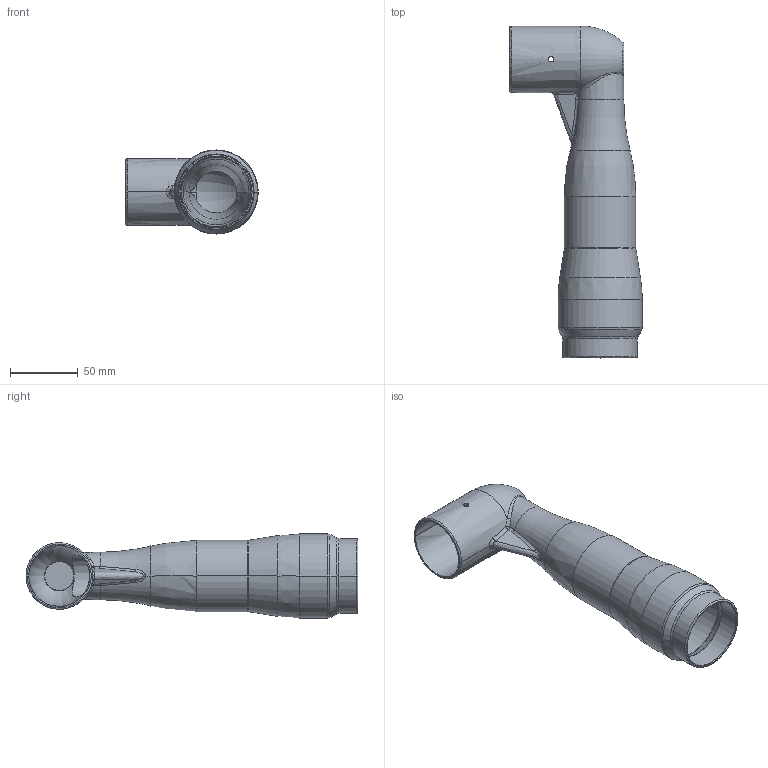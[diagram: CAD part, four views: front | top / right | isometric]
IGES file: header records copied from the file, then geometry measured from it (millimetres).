
Start section:  PTC IGES file: 6155732100.igs
Global section: file name: 6155732100.igs; native system: Creo Parametric by PTC Inc.; preprocessor: 2014500; author: Greextfpav; organization: Unknown; date: 20150720.092730; units: millimetre
Bounding box: 97.5 x 244.5 x 62 mm (x, y, z)
Volume: 86394.5 mm3; surface area: 86802.3 mm2
Topology: 1 solids, 1 shells, 112 faces, 244 edges, 134 vertices
Faces by surface type: revolution 70, bspline 42
